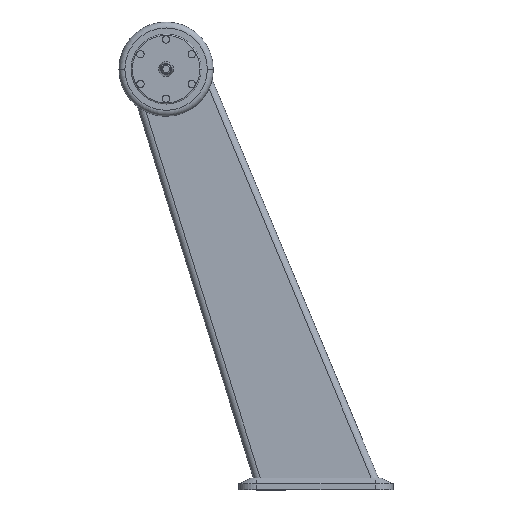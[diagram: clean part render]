
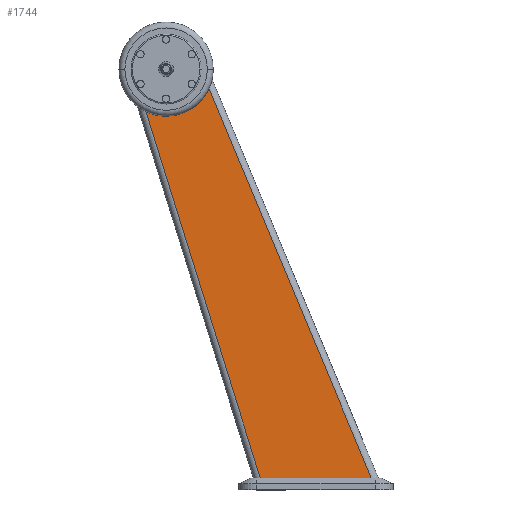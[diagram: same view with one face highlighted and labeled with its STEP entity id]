
A CAD part, top view. The second image highlights one B-rep face of the part: STEP entity #1744.
In plain terms, the highlighted planar face has unit normal (0, 0, 1).
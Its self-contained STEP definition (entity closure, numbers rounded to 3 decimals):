
#5 = VERTEX_POINT ( 'NONE', #1385 ) ;
#40 = DIRECTION ( 'NONE',  ( -1., 0., 0. ) ) ;
#44 = PLANE ( 'NONE',  #1465 ) ;
#60 = CARTESIAN_POINT ( 'NONE',  ( -319.499, 687.769, 31.25 ) ) ;
#115 = CARTESIAN_POINT ( 'NONE',  ( -99.377, 20., 31.25 ) ) ;
#133 = DIRECTION ( 'NONE',  ( 0., 0., -1. ) ) ;
#277 = VERTEX_POINT ( 'NONE', #115 ) ;
#309 = CARTESIAN_POINT ( 'NONE',  ( -209.807, 733.546, 31.25 ) ) ;
#553 = VECTOR ( 'NONE', #1253, 1000. ) ;
#752 = EDGE_LOOP ( 'NONE', ( #971, #1435, #1860, #1025 ) ) ;
#762 = CARTESIAN_POINT ( 'NONE',  ( -258.419, 710., 31.25 ) ) ;
#884 = VECTOR ( 'NONE', #1255, 1000. ) ;
#927 = DIRECTION ( 'NONE',  ( -1., 0., 0. ) ) ;
#947 = CARTESIAN_POINT ( 'NONE',  ( 87.977, 20., 31.25 ) ) ;
#971 = ORIENTED_EDGE ( 'NONE', *, *, #1049, .F. ) ;
#1025 = ORIENTED_EDGE ( 'NONE', *, *, #2134, .T. ) ;
#1035 = LINE ( 'NONE', #1251, #553 ) ;
#1049 = EDGE_CURVE ( 'NONE', #2180, #277, #1035, .T. ) ;
#1100 = DIRECTION ( 'NONE',  ( 0.298, -0.955, 0. ) ) ;
#1251 = CARTESIAN_POINT ( 'NONE',  ( -319.499, 20., 31.25 ) ) ;
#1253 = DIRECTION ( 'NONE',  ( -1., 0., 0. ) ) ;
#1255 = DIRECTION ( 'NONE',  ( -0.385, 0.923, 0. ) ) ;
#1385 = CARTESIAN_POINT ( 'NONE',  ( -186.153, 676.866, 31.25 ) ) ;
#1435 = ORIENTED_EDGE ( 'NONE', *, *, #2073, .T. ) ;
#1465 = AXIS2_PLACEMENT_3D ( 'NONE', #60, #133, #40 ) ;
#1645 = VECTOR ( 'NONE', #1100, 1000. ) ;
#1666 = CARTESIAN_POINT ( 'NONE',  ( -292.48, 638.166, 31.25 ) ) ;
#1709 = AXIS2_PLACEMENT_3D ( 'NONE', #762, #1923, #927 ) ;
#1744 = ADVANCED_FACE ( 'NONE', ( #1953 ), #44, .F. ) ;
#1772 = CARTESIAN_POINT ( 'NONE',  ( -308.999, 691.049, 31.25 ) ) ;
#1860 = ORIENTED_EDGE ( 'NONE', *, *, #2128, .F. ) ;
#1923 = DIRECTION ( 'NONE',  ( 0., 0., 1. ) ) ;
#1953 = FACE_OUTER_BOUND ( 'NONE', #752, .T. ) ;
#2045 = LINE ( 'NONE', #1772, #1645 ) ;
#2073 = EDGE_CURVE ( 'NONE', #2180, #5, #2197, .T. ) ;
#2099 = CIRCLE ( 'NONE', #1709, 79.5 ) ;
#2128 = EDGE_CURVE ( 'NONE', #2280, #5, #2099, .T. ) ;
#2134 = EDGE_CURVE ( 'NONE', #2280, #277, #2045, .T. ) ;
#2180 = VERTEX_POINT ( 'NONE', #947 ) ;
#2197 = LINE ( 'NONE', #309, #884 ) ;
#2280 = VERTEX_POINT ( 'NONE', #1666 ) ;
